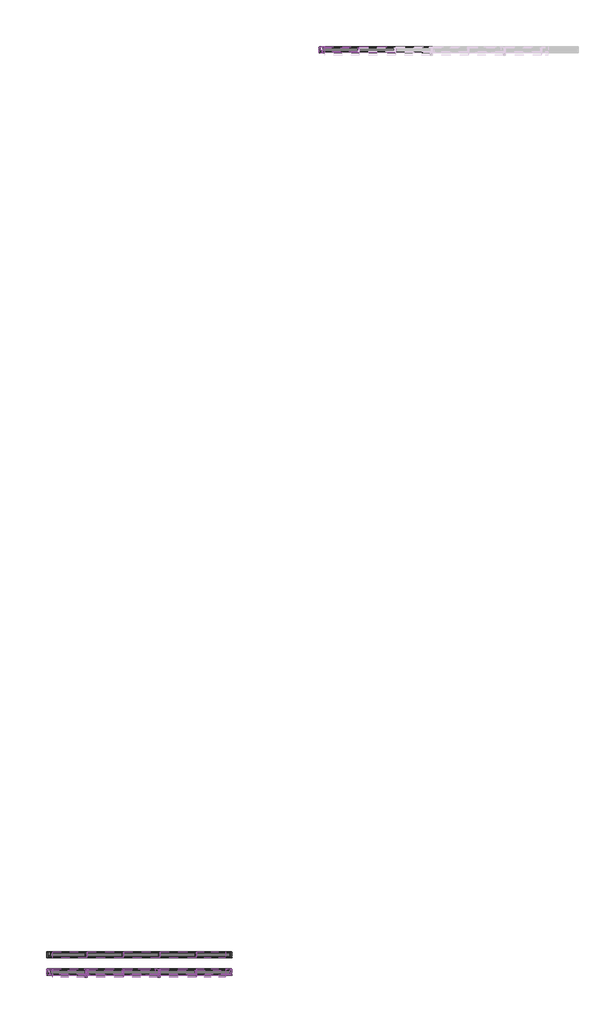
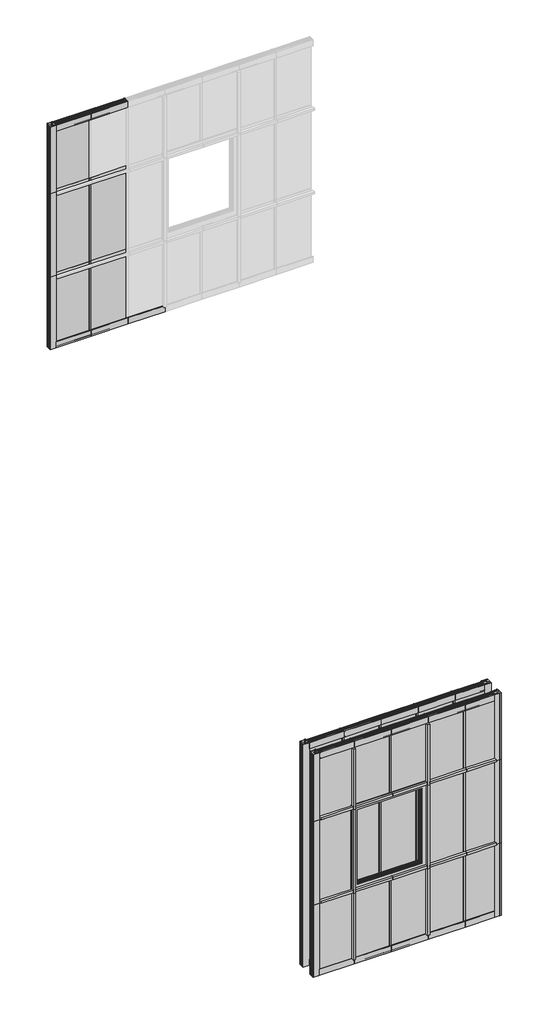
# One storey, part 1 of 2: 52 members, 24 plates.
"""IFC4 building model written with IfcOpenShell, lengths in millimetres."""

from ifc_helpers import new_model, si_unit, origin, place, context, project, spatial, transform, mapped, element, save
from components import rectangular_mullion_3d33f7ff, rectangular_mullion_8ebac9a3, rectangular_mullion_053339e4, rectangular_mullion_ac457c08, rectangular_mullion_18d46115, rectangular_mullion_0cc837b9, rectangular_mullion_8438cd58, rectangular_mullion_f415532d, rectangular_mullion_8e6b7b6a, rectangular_mullion_9ac38ad4, rectangular_mullion_693fc03c, rectangular_mullion_91cc7b07, rectangular_mullion_ccd2dda7, rectangular_mullion_388b4376, plate_56173b51, plate_675aabbb, plate_009a9a5f, plate_8ef7ebab, plate_4441f15f, plate_d8b1bd5c, plate_df3c17a9, plate_2f56a092, plate_6e1f941d

model = new_model("IFC4")

# Units and contexts
model_context = context("Model", 3, world=origin())
ifc_project = project(units=[si_unit("LENGTHUNIT", "METRE", prefix="MILLI")], contexts=[model_context])

# Site, building, storey
site = spatial("IfcSite", under=ifc_project)
building = spatial("IfcBuilding", under=site)
storey = spatial("IfcBuildingStorey", under=building, Name="Danpal-K7+AIRPT", Elevation=0.0)

# Members
placement = place(None, origin())
rectangular_mullion_shape = rectangular_mullion_3d33f7ff(model_context)
element("IfcMember", 1, ObjectType="Rectangular Mullion : Danpal_Airpt_End-Mullion_B2", at=placement, inside=storey, context=model_context, shape_type="MappedRepresentation", body=[
    mapped(rectangular_mullion_shape, transform((1362.1229407, 2317.5512666, 4000.0), x_axis=(0.0, 0.0, 1.0), y_axis=(0.0, -1.0, 0.0), z_axis=(1.0, 0.0, 0.0))),
])
rectangular_mullion_2_shape = rectangular_mullion_8ebac9a3(model_context)
element("IfcMember", 2, ObjectType="Rectangular Mullion : Danpal_Airpt_End-Mullion_B2", at=placement, inside=storey, context=model_context, shape_type="MappedRepresentation", body=[
    mapped(rectangular_mullion_2_shape, transform((1992.1229407, 2317.5512666, 4000.0), x_axis=(0.0, 0.0, 1.0), y_axis=(0.0, -1.0, 0.0), z_axis=(1.0, 0.0, 0.0))),
])
element("IfcMember", 3, ObjectType="Rectangular Mullion : Danpal_Airpt_End-Mullion_B2", at=placement, inside=storey, context=model_context, shape_type="MappedRepresentation", body=[
    mapped(rectangular_mullion_2_shape, transform((3252.1229407, 2317.5512666, 4000.0), x_axis=(0.0, 0.0, 1.0), y_axis=(0.0, -1.0, 0.0), z_axis=(1.0, 0.0, 0.0))),
])
element("IfcMember", 4, ObjectType="Rectangular Mullion : Danpal_Airpt_End-Mullion_B1", at=placement, inside=storey, context=model_context, shape_type="MappedRepresentation", body=[
    mapped(rectangular_mullion_shape, transform((771.171497, 2317.5512666, 0.0), x_axis=(0.0, 0.0, -1.0), y_axis=(0.0, -1.0, 0.0), z_axis=(-1.0, 0.0, 0.0))),
])
element("IfcMember", 5, ObjectType="Rectangular Mullion : Danpal_Airpt_End-Mullion_B1", at=placement, inside=storey, context=model_context, shape_type="MappedRepresentation", body=[
    mapped(rectangular_mullion_2_shape, transform((1362.1229407, 2317.5512666, 0.0), x_axis=(0.0, 0.0, -1.0), y_axis=(0.0, -1.0, 0.0), z_axis=(-1.0, 0.0, 0.0))),
])
element("IfcMember", 6, ObjectType="Rectangular Mullion : Danpal_Airpt_End-Mullion_B1", at=placement, inside=storey, context=model_context, shape_type="MappedRepresentation", body=[
    mapped(rectangular_mullion_2_shape, transform((2622.1229407, 2317.5512666, 0.0), x_axis=(0.0, 0.0, -1.0), y_axis=(0.0, -1.0, 0.0), z_axis=(-1.0, 0.0, 0.0))),
])
element("IfcMember", 7, ObjectType="Rectangular Mullion : Danpal_Airpt_End-Mullion_B2", at=placement, inside=storey, context=model_context, shape_type="MappedRepresentation", body=[
    mapped(rectangular_mullion_2_shape, transform((2622.1229407, 2317.5512666, 4000.0), x_axis=(0.0, 0.0, 1.0), y_axis=(0.0, -1.0, 0.0), z_axis=(1.0, 0.0, 0.0))),
])
element("IfcMember", 8, ObjectType="Rectangular Mullion : Danpal_Airpt_End-Mullion_B1", at=placement, inside=storey, context=model_context, shape_type="MappedRepresentation", body=[
    mapped(rectangular_mullion_2_shape, transform((1992.1229407, 2317.5512666, 0.0), x_axis=(0.0, 0.0, -1.0), y_axis=(0.0, -1.0, 0.0), z_axis=(-1.0, 0.0, 0.0))),
])
element("IfcMember", 9, ObjectType="Rectangular Mullion : Danpal_Airpt_End-Mullion_B1", at=placement, inside=storey, context=model_context, shape_type="MappedRepresentation", body=[
    mapped(rectangular_mullion_2_shape, transform((6692.1229407, 18217.5512666, 0.0), x_axis=(0.0, 0.0, -1.0), y_axis=(0.0, -1.0, 0.0), z_axis=(-1.0, 0.0, 0.0))),
])
rectangular_mullion_3_shape = rectangular_mullion_053339e4(model_context)
element("IfcMember", 10, ObjectType="Rectangular Mullion : Danpal_NM_Middle-V-Mullion", at=placement, inside=storey, context=model_context, shape_type="MappedRepresentation", body=[
    mapped(rectangular_mullion_3_shape, transform((1362.1229407, 2317.5512666, 106.8892292), x_axis=(1.0, 0.0, 0.0), y_axis=(0.0, -1.0, 0.0), z_axis=(0.0, 0.0, -1.0))),
])
element("IfcMember", 11, ObjectType="Rectangular Mullion : Danpal_NM_Middle-V-Mullion", at=placement, inside=storey, context=model_context, shape_type="MappedRepresentation", body=[
    mapped(rectangular_mullion_3_shape, transform((2622.1229407, 2317.5512666, 106.8892292), x_axis=(1.0, 0.0, 0.0), y_axis=(0.0, -1.0, 0.0), z_axis=(0.0, 0.0, -1.0))),
])
rectangular_mullion_4_shape = rectangular_mullion_ac457c08(model_context)
element("IfcMember", 12, ObjectType="Rectangular Mullion : Danpal_Airpt_End-Mullion_B2", at=placement, inside=storey, context=model_context, shape_type="MappedRepresentation", body=[
    mapped(rectangular_mullion_4_shape, transform((3864.2822678, 2317.5512666, 0.0), x_axis=(1.0, 0.0, 0.0), y_axis=(0.0, -1.0, 0.0), z_axis=(0.0, 0.0, -1.0))),
])
element("IfcMember", 13, ObjectType="Rectangular Mullion : Danpal_Airpt_End-Mullion_B1", at=placement, inside=storey, context=model_context, shape_type="MappedRepresentation", body=[
    mapped(rectangular_mullion_4_shape, transform((664.2822678, 2317.5512666, 1300.0), x_axis=(-1.0, 0.0, 0.0), y_axis=(0.0, -1.0, 0.0), z_axis=(0.0, 0.0, 1.0))),
])
element("IfcMember", 14, ObjectType="Rectangular Mullion : Danpal_Airpt_End-Mullion_B1", at=placement, inside=storey, context=model_context, shape_type="MappedRepresentation", body=[
    mapped(rectangular_mullion_4_shape, transform((5364.2822678, 18217.5512666, 1300.0), x_axis=(-1.0, 0.0, 0.0), y_axis=(0.0, -1.0, 0.0), z_axis=(0.0, 0.0, 1.0))),
])
rectangular_mullion_5_shape = rectangular_mullion_18d46115(model_context)
element("IfcMember", 15, ObjectType="Rectangular Mullion : Danpal_NM_Middle-V-Mullion", at=placement, inside=storey, context=model_context, shape_type="MappedRepresentation", body=[
    mapped(rectangular_mullion_5_shape, transform((1362.1229407, 2317.5512666, 1300.0), x_axis=(1.0, 0.0, 0.0), y_axis=(0.0, -1.0, 0.0), z_axis=(0.0, 0.0, -1.0))),
])
element("IfcMember", 16, ObjectType="Rectangular Mullion : Danpal_NM_Middle-V-Mullion", at=placement, inside=storey, context=model_context, shape_type="MappedRepresentation", body=[
    mapped(rectangular_mullion_5_shape, transform((2622.1229407, 2317.5512666, 1300.0), x_axis=(1.0, 0.0, 0.0), y_axis=(0.0, -1.0, 0.0), z_axis=(0.0, 0.0, -1.0))),
])
rectangular_mullion_6_shape = rectangular_mullion_0cc837b9(model_context)
element("IfcMember", 17, ObjectType="Rectangular Mullion : Danpal_NM_Middle-V-Mullion", at=placement, inside=storey, context=model_context, shape_type="MappedRepresentation", body=[
    mapped(rectangular_mullion_6_shape, transform((1362.1229407, 2317.5512666, 2800.0), x_axis=(1.0, 0.0, 0.0), y_axis=(0.0, -1.0, 0.0), z_axis=(0.0, 0.0, -1.0))),
])
element("IfcMember", 18, ObjectType="Rectangular Mullion : Danpal_NM_Middle-V-Mullion", at=placement, inside=storey, context=model_context, shape_type="MappedRepresentation", body=[
    mapped(rectangular_mullion_6_shape, transform((2622.1229407, 2317.5512666, 2800.0), x_axis=(1.0, 0.0, 0.0), y_axis=(0.0, -1.0, 0.0), z_axis=(0.0, 0.0, -1.0))),
])
rectangular_mullion_7_shape = rectangular_mullion_8438cd58(model_context)
element("IfcMember", 19, ObjectType="Rectangular Mullion : Danpal_Airpt_End-Mullion_B2", at=placement, inside=storey, context=model_context, shape_type="MappedRepresentation", body=[
    mapped(rectangular_mullion_7_shape, transform((3864.2822678, 2317.5512666, 2800.0), x_axis=(1.0, 0.0, 0.0), y_axis=(0.0, -1.0, 0.0), z_axis=(0.0, 0.0, -1.0))),
])
rectangular_mullion_8_shape = rectangular_mullion_f415532d(model_context)
element("IfcMember", 20, ObjectType="Rectangular Mullion : Danpal_Airpt_End-Mullion_B2", at=placement, inside=storey, context=model_context, shape_type="MappedRepresentation", body=[
    mapped(rectangular_mullion_8_shape, transform((3864.2822678, 2317.5512666, 1300.0), x_axis=(1.0, 0.0, 0.0), y_axis=(0.0, -1.0, 0.0), z_axis=(0.0, 0.0, -1.0))),
])
element("IfcMember", 21, ObjectType="Rectangular Mullion : Danpal_Airpt_End-Mullion_B1", at=placement, inside=storey, context=model_context, shape_type="MappedRepresentation", body=[
    mapped(rectangular_mullion_7_shape, transform((664.2822678, 2317.5512666, 4000.0), x_axis=(-1.0, 0.0, 0.0), y_axis=(0.0, -1.0, 0.0), z_axis=(0.0, 0.0, 1.0))),
])
element("IfcMember", 22, ObjectType="Rectangular Mullion : Danpal_Airpt_End-Mullion_B1", at=placement, inside=storey, context=model_context, shape_type="MappedRepresentation", body=[
    mapped(rectangular_mullion_8_shape, transform((664.2822678, 2317.5512666, 2800.0), x_axis=(-1.0, 0.0, 0.0), y_axis=(0.0, -1.0, 0.0), z_axis=(0.0, 0.0, 1.0))),
])
element("IfcMember", 23, ObjectType="Rectangular Mullion : Danpal_Airpt_End-Mullion_B1", at=placement, inside=storey, context=model_context, shape_type="MappedRepresentation", body=[
    mapped(rectangular_mullion_8_shape, transform((5364.2822678, 18217.5512666, 2800.0), x_axis=(-1.0, 0.0, 0.0), y_axis=(0.0, -1.0, 0.0), z_axis=(0.0, 0.0, 1.0))),
])
rectangular_mullion_9_shape = rectangular_mullion_8e6b7b6a(model_context)
element("IfcMember", 24, ObjectType="Rectangular Mullion : Danpal_NM_Middle-H-Mullion", at=placement, inside=storey, context=model_context, shape_type="MappedRepresentation", body=[
    mapped(rectangular_mullion_9_shape, transform((1992.1229407, 2317.5512666, 2800.0), x_axis=(0.0, 0.0, 1.0), y_axis=(0.0, -1.0, 0.0), z_axis=(1.0, 0.0, 0.0))),
])
element("IfcMember", 25, ObjectType="Rectangular Mullion : Danpal_NM_Middle-H-Mullion", at=placement, inside=storey, context=model_context, shape_type="MappedRepresentation", body=[
    mapped(rectangular_mullion_9_shape, transform((1992.1229407, 2317.5512666, 1300.0), x_axis=(0.0, 0.0, 1.0), y_axis=(0.0, -1.0, 0.0), z_axis=(1.0, 0.0, 0.0))),
])
element("IfcMember", 26, ObjectType="Rectangular Mullion : Danpal_NM_Middle-H-Mullion", at=placement, inside=storey, context=model_context, shape_type="MappedRepresentation", body=[
    mapped(rectangular_mullion_9_shape, transform((3252.1229407, 2317.5512666, 1300.0), x_axis=(0.0, 0.0, 1.0), y_axis=(0.0, -1.0, 0.0), z_axis=(1.0, 0.0, 0.0))),
])
element("IfcMember", 27, ObjectType="Rectangular Mullion : Danpal_NM_Middle-H-Mullion", at=placement, inside=storey, context=model_context, shape_type="MappedRepresentation", body=[
    mapped(rectangular_mullion_9_shape, transform((3252.1229407, 2317.5512666, 2800.0), x_axis=(0.0, 0.0, 1.0), y_axis=(0.0, -1.0, 0.0), z_axis=(1.0, 0.0, 0.0))),
])
rectangular_mullion_10_shape = rectangular_mullion_9ac38ad4(model_context)
element("IfcMember", 28, ObjectType="Rectangular Mullion : Danpal_NM_Middle-H-Mullion", at=placement, inside=storey, context=model_context, shape_type="MappedRepresentation", body=[
    mapped(rectangular_mullion_10_shape, transform((2582.1229407, 2317.5512666, 2800.0), x_axis=(0.0, 0.0, 1.0), y_axis=(0.0, -1.0, 0.0), z_axis=(1.0, 0.0, 0.0))),
])
element("IfcMember", 29, ObjectType="Rectangular Mullion : Danpal_NM_Middle-H-Mullion", at=placement, inside=storey, context=model_context, shape_type="MappedRepresentation", body=[
    mapped(rectangular_mullion_10_shape, transform((2582.1229407, 2317.5512666, 1300.0), x_axis=(0.0, 0.0, 1.0), y_axis=(0.0, -1.0, 0.0), z_axis=(1.0, 0.0, 0.0))),
])
rectangular_mullion_11_shape = rectangular_mullion_693fc03c(model_context)
element("IfcMember", 30, ObjectType="Rectangular Mullion : Danpal_NM_Middle-H-Mullion", at=placement, inside=storey, context=model_context, shape_type="MappedRepresentation", body=[
    mapped(rectangular_mullion_11_shape, transform((1322.1229407, 2317.5512666, 1300.0), x_axis=(0.0, 0.0, 1.0), y_axis=(0.0, -1.0, 0.0), z_axis=(1.0, 0.0, 0.0))),
])
element("IfcMember", 31, ObjectType="Rectangular Mullion : Danpal_NM_Middle-H-Mullion", at=placement, inside=storey, context=model_context, shape_type="MappedRepresentation", body=[
    mapped(rectangular_mullion_11_shape, transform((1322.1229407, 2317.5512666, 2800.0), x_axis=(0.0, 0.0, 1.0), y_axis=(0.0, -1.0, 0.0), z_axis=(1.0, 0.0, 0.0))),
])
rectangular_mullion_12_shape = rectangular_mullion_91cc7b07(model_context)
element("IfcMember", 32, ObjectType="Rectangular Mullion : Danpal_NM_Middle-H-Mullion", at=placement, inside=storey, context=model_context, shape_type="MappedRepresentation", body=[
    mapped(rectangular_mullion_12_shape, transform((3757.3930386, 2317.5512666, 1300.0), x_axis=(0.0, 0.0, 1.0), y_axis=(0.0, -1.0, 0.0), z_axis=(1.0, 0.0, 0.0))),
])
element("IfcMember", 33, ObjectType="Rectangular Mullion : Danpal_NM_Middle-H-Mullion", at=placement, inside=storey, context=model_context, shape_type="MappedRepresentation", body=[
    mapped(rectangular_mullion_12_shape, transform((3757.3930386, 2317.5512666, 2800.0), x_axis=(0.0, 0.0, 1.0), y_axis=(0.0, -1.0, 0.0), z_axis=(1.0, 0.0, 0.0))),
])
element("IfcMember", 34, ObjectType="Rectangular Mullion : Danpal_Airpt_End-Mullion_B1", at=placement, inside=storey, context=model_context, shape_type="MappedRepresentation", body=[
    mapped(rectangular_mullion_2_shape, transform((6062.1229407, 18217.5512666, 0.0), x_axis=(0.0, 0.0, -1.0), y_axis=(0.0, -1.0, 0.0), z_axis=(-1.0, 0.0, 0.0))),
])
element("IfcMember", 35, ObjectType="Rectangular Mullion : Danpal_Airpt_End-Mullion_B2", at=placement, inside=storey, context=model_context, shape_type="MappedRepresentation", body=[
    mapped(rectangular_mullion_shape, transform((6062.1229407, 18217.5512666, 4000.0), x_axis=(0.0, 0.0, 1.0), y_axis=(0.0, -1.0, 0.0), z_axis=(1.0, 0.0, 0.0))),
])
element("IfcMember", 36, ObjectType="Rectangular Mullion : Danpal_Airpt_End-Mullion_B1", at=placement, inside=storey, context=model_context, shape_type="MappedRepresentation", body=[
    mapped(rectangular_mullion_7_shape, transform((5364.2822678, 18217.5512666, 4000.0), x_axis=(-1.0, 0.0, 0.0), y_axis=(0.0, -1.0, 0.0), z_axis=(0.0, 0.0, 1.0))),
])
rectangular_mullion_13_shape = rectangular_mullion_ccd2dda7(model_context)
element("IfcMember", 37, ObjectType="Rectangular Mullion : Danpal_Airpt_End-Mullion_B1", at=placement, inside=storey, context=model_context, shape_type="MappedRepresentation", body=[
    mapped(rectangular_mullion_13_shape, transform((664.2822678, 2617.5512666, 4000.0), x_axis=(-1.0, 0.0, 0.0), y_axis=(0.0, -1.0, 0.0), z_axis=(0.0, 0.0, 1.0))),
])
element("IfcMember", 38, ObjectType="Rectangular Mullion : Danpal_Airpt_End-Mullion_B2", at=placement, inside=storey, context=model_context, shape_type="MappedRepresentation", body=[
    mapped(rectangular_mullion_13_shape, transform((3864.2822678, 2617.5512666, 0.0), x_axis=(1.0, 0.0, 0.0), y_axis=(0.0, -1.0, 0.0), z_axis=(0.0, 0.0, -1.0))),
])
element("IfcMember", 39, ObjectType="Rectangular Mullion : Danpal_Airpt_End-Mullion_B2", at=placement, inside=storey, context=model_context, shape_type="MappedRepresentation", body=[
    mapped(rectangular_mullion_2_shape, transform((3252.1229407, 2617.5512666, 4000.0), x_axis=(0.0, 0.0, 1.0), y_axis=(0.0, -1.0, 0.0), z_axis=(1.0, 0.0, 0.0))),
])
element("IfcMember", 40, ObjectType="Rectangular Mullion : Danpal_Airpt_End-Mullion_B2", at=placement, inside=storey, context=model_context, shape_type="MappedRepresentation", body=[
    mapped(rectangular_mullion_2_shape, transform((6692.1229407, 18217.5512666, 4000.0), x_axis=(0.0, 0.0, 1.0), y_axis=(0.0, -1.0, 0.0), z_axis=(1.0, 0.0, 0.0))),
])
element("IfcMember", 41, ObjectType="Rectangular Mullion : Danpal_Airpt_End-Mullion_B2", at=placement, inside=storey, context=model_context, shape_type="MappedRepresentation", body=[
    mapped(rectangular_mullion_shape, transform((1362.1229407, 2617.5512666, 4000.0), x_axis=(0.0, 0.0, 1.0), y_axis=(0.0, -1.0, 0.0), z_axis=(1.0, 0.0, 0.0))),
])
element("IfcMember", 42, ObjectType="Rectangular Mullion : Danpal_Airpt_End-Mullion_B2", at=placement, inside=storey, context=model_context, shape_type="MappedRepresentation", body=[
    mapped(rectangular_mullion_2_shape, transform((1992.1229407, 2617.5512666, 4000.0), x_axis=(0.0, 0.0, 1.0), y_axis=(0.0, -1.0, 0.0), z_axis=(1.0, 0.0, 0.0))),
])
element("IfcMember", 43, ObjectType="Rectangular Mullion : Danpal_Airpt_End-Mullion_B2", at=placement, inside=storey, context=model_context, shape_type="MappedRepresentation", body=[
    mapped(rectangular_mullion_2_shape, transform((2622.1229407, 2617.5512666, 4000.0), x_axis=(0.0, 0.0, 1.0), y_axis=(0.0, -1.0, 0.0), z_axis=(1.0, 0.0, 0.0))),
])
element("IfcMember", 44, ObjectType="Rectangular Mullion : Danpal_Airpt_End-Mullion_B1", at=placement, inside=storey, context=model_context, shape_type="MappedRepresentation", body=[
    mapped(rectangular_mullion_shape, transform((771.171497, 2617.5512666, 0.0), x_axis=(0.0, 0.0, -1.0), y_axis=(0.0, -1.0, 0.0), z_axis=(-1.0, 0.0, 0.0))),
])
element("IfcMember", 45, ObjectType="Rectangular Mullion : Danpal_Airpt_End-Mullion_B1", at=placement, inside=storey, context=model_context, shape_type="MappedRepresentation", body=[
    mapped(rectangular_mullion_shape, transform((5471.171497, 18217.5512666, 0.0), x_axis=(0.0, 0.0, -1.0), y_axis=(0.0, -1.0, 0.0), z_axis=(-1.0, 0.0, 0.0))),
])
element("IfcMember", 46, ObjectType="Rectangular Mullion : Danpal_Airpt_End-Mullion_B1", at=placement, inside=storey, context=model_context, shape_type="MappedRepresentation", body=[
    mapped(rectangular_mullion_2_shape, transform((1362.1229407, 2617.5512666, 0.0), x_axis=(0.0, 0.0, -1.0), y_axis=(0.0, -1.0, 0.0), z_axis=(-1.0, 0.0, 0.0))),
])
element("IfcMember", 47, ObjectType="Rectangular Mullion : Danpal_Airpt_End-Mullion_B1", at=placement, inside=storey, context=model_context, shape_type="MappedRepresentation", body=[
    mapped(rectangular_mullion_2_shape, transform((1992.1229407, 2617.5512666, 0.0), x_axis=(0.0, 0.0, -1.0), y_axis=(0.0, -1.0, 0.0), z_axis=(-1.0, 0.0, 0.0))),
])
element("IfcMember", 48, ObjectType="Rectangular Mullion : Danpal_Airpt_End-Mullion_B1", at=placement, inside=storey, context=model_context, shape_type="MappedRepresentation", body=[
    mapped(rectangular_mullion_2_shape, transform((2622.1229407, 2617.5512666, 0.0), x_axis=(0.0, 0.0, -1.0), y_axis=(0.0, -1.0, 0.0), z_axis=(-1.0, 0.0, 0.0))),
])
rectangular_mullion_14_shape = rectangular_mullion_388b4376(model_context)
element("IfcMember", 49, ObjectType="Rectangular Mullion : Danpal_Airpt_End-Mullion_B2", at=placement, inside=storey, context=model_context, shape_type="MappedRepresentation", body=[
    mapped(rectangular_mullion_14_shape, transform((3757.3930386, 2317.5512666, 4000.0), x_axis=(0.0, 0.0, 1.0), y_axis=(0.0, -1.0, 0.0), z_axis=(1.0, 0.0, 0.0))),
])
element("IfcMember", 50, ObjectType="Rectangular Mullion : Danpal_Airpt_End-Mullion_B2", at=placement, inside=storey, context=model_context, shape_type="MappedRepresentation", body=[
    mapped(rectangular_mullion_14_shape, transform((3757.3930386, 2617.5512666, 4000.0), x_axis=(0.0, 0.0, 1.0), y_axis=(0.0, -1.0, 0.0), z_axis=(1.0, 0.0, 0.0))),
])
element("IfcMember", 51, ObjectType="Rectangular Mullion : Danpal_Airpt_End-Mullion_B1", at=placement, inside=storey, context=model_context, shape_type="MappedRepresentation", body=[
    mapped(rectangular_mullion_14_shape, transform((3252.1229407, 2317.5512666, 0.0), x_axis=(0.0, 0.0, -1.0), y_axis=(0.0, -1.0, 0.0), z_axis=(-1.0, 0.0, 0.0))),
])
element("IfcMember", 52, ObjectType="Rectangular Mullion : Danpal_Airpt_End-Mullion_B1", at=placement, inside=storey, context=model_context, shape_type="MappedRepresentation", body=[
    mapped(rectangular_mullion_14_shape, transform((3252.1229407, 2617.5512666, 0.0), x_axis=(0.0, 0.0, -1.0), y_axis=(0.0, -1.0, 0.0), z_axis=(-1.0, 0.0, 0.0))),
])

# Plates
plate_shape = plate_56173b51(model_context)
element("IfcPlate", 53, ObjectType="Window-Profile-Danpal-AIRPT : Window-Profile-Danpal-AIRPT", at=placement, inside=storey, context=model_context, shape_type="MappedRepresentation", body=[
    mapped(plate_shape, transform((1992.1229407, 2317.5512666, 1300.0), x_axis=(1.0, 0.0, 0.0), y_axis=(0.0, 1.0, 0.0), z_axis=(0.0, 0.0, 1.0))),
])
plate_2_shape = plate_675aabbb(model_context)
element("IfcPlate", 54, ObjectType="Walls_External-Walls_Danpal_Danpatherm-K7-with-AIRPT-Frame : Walls_External-Walls_Danpal_Danpatherm-K7-with-AIRPT-Frame", at=placement, inside=storey, context=model_context, shape_type="MappedRepresentation", body=[
    mapped(plate_2_shape, transform((3535.4322678, 2317.5512666, 67.840673), x_axis=(1.0, 0.0, 0.0), y_axis=(0.0, 1.0, 0.0), z_axis=(0.0, 0.0, 1.0))),
])
plate_3_shape = plate_009a9a5f(model_context)
element("IfcPlate", 55, ObjectType="Walls_External-Walls_Danpal_Danpatherm-K7-with-AIRPT-Frame : Walls_External-Walls_Danpal_Danpatherm-K7-with-AIRPT-Frame", at=placement, inside=storey, context=model_context, shape_type="MappedRepresentation", body=[
    mapped(plate_3_shape, transform((1047.1229407, 2317.5512666, 1300.0), x_axis=(1.0, 0.0, 0.0), y_axis=(0.0, 1.0, 0.0), z_axis=(0.0, 0.0, 1.0))),
])
element("IfcPlate", 56, ObjectType="Walls_External-Walls_Danpal_Danpatherm-K7-with-AIRPT-Frame : Walls_External-Walls_Danpal_Danpatherm-K7-with-AIRPT-Frame", at=placement, inside=storey, context=model_context, shape_type="MappedRepresentation", body=[
    mapped(plate_3_shape, transform((2937.1229407, 2317.5512666, 1300.0), x_axis=(1.0, 0.0, 0.0), y_axis=(0.0, 1.0, 0.0), z_axis=(0.0, 0.0, 1.0))),
])
element("IfcPlate", 57, ObjectType="Walls_External-Walls_Danpal_Danpatherm-K7-with-AIRPT-Frame : Walls_External-Walls_Danpal_Danpatherm-K7-with-AIRPT-Frame", at=placement, inside=storey, context=model_context, shape_type="MappedRepresentation", body=[
    mapped(plate_3_shape, transform((5747.1229407, 18217.5512666, 1300.0), x_axis=(1.0, 0.0, 0.0), y_axis=(0.0, 1.0, 0.0), z_axis=(0.0, 0.0, 1.0))),
])
element("IfcPlate", 58, ObjectType="Walls_External-Walls_Danpal_Danpatherm-K7-with-AIRPT-Frame : Walls_External-Walls_Danpal_Danpatherm-K7-with-AIRPT-Frame", at=placement, inside=storey, context=model_context, shape_type="MappedRepresentation", body=[
    mapped(plate_3_shape, transform((6377.1229407, 18217.5512666, 1300.0), x_axis=(1.0, 0.0, 0.0), y_axis=(0.0, 1.0, 0.0), z_axis=(0.0, 0.0, 1.0))),
])
plate_4_shape = plate_8ef7ebab(model_context)
element("IfcPlate", 59, ObjectType="Walls_External-Walls_Danpal_Danpatherm-K7-with-AIRPT-Frame : Walls_External-Walls_Danpal_Danpatherm-K7-with-AIRPT-Frame", at=placement, inside=storey, context=model_context, shape_type="MappedRepresentation", body=[
    mapped(plate_4_shape, transform((3535.4322678, 2317.5512666, 2800.0), x_axis=(1.0, 0.0, 0.0), y_axis=(0.0, 1.0, 0.0), z_axis=(0.0, 0.0, 1.0))),
])
plate_5_shape = plate_4441f15f(model_context)
element("IfcPlate", 60, ObjectType="Walls_External-Walls_Danpal_Danpatherm-K7-with-AIRPT-Frame : Walls_External-Walls_Danpal_Danpatherm-K7-with-AIRPT-Frame", at=placement, inside=storey, context=model_context, shape_type="MappedRepresentation", body=[
    mapped(plate_5_shape, transform((3535.4322678, 2317.5512666, 1300.0), x_axis=(1.0, 0.0, 0.0), y_axis=(0.0, 1.0, 0.0), z_axis=(0.0, 0.0, 1.0))),
])
plate_6_shape = plate_d8b1bd5c(model_context)
element("IfcPlate", 61, ObjectType="Walls_External-Walls_Danpal_Danpatherm-K7-with-AIRPT-Frame : Walls_External-Walls_Danpal_Danpatherm-K7-with-AIRPT-Frame", at=placement, inside=storey, context=model_context, shape_type="MappedRepresentation", body=[
    mapped(plate_6_shape, transform((1677.1229407, 2317.5512666, 67.840673), x_axis=(1.0, 0.0, 0.0), y_axis=(0.0, 1.0, 0.0), z_axis=(0.0, 0.0, 1.0))),
])
element("IfcPlate", 62, ObjectType="Walls_External-Walls_Danpal_Danpatherm-K7-with-AIRPT-Frame : Walls_External-Walls_Danpal_Danpatherm-K7-with-AIRPT-Frame", at=placement, inside=storey, context=model_context, shape_type="MappedRepresentation", body=[
    mapped(plate_6_shape, transform((2307.1229407, 2317.5512666, 67.840673), x_axis=(1.0, 0.0, 0.0), y_axis=(0.0, 1.0, 0.0), z_axis=(0.0, 0.0, 1.0))),
])
element("IfcPlate", 63, ObjectType="Walls_External-Walls_Danpal_Danpatherm-K7-with-AIRPT-Frame : Walls_External-Walls_Danpal_Danpatherm-K7-with-AIRPT-Frame", at=placement, inside=storey, context=model_context, shape_type="MappedRepresentation", body=[
    mapped(plate_6_shape, transform((1047.1229407, 2317.5512666, 67.840673), x_axis=(1.0, 0.0, 0.0), y_axis=(0.0, 1.0, 0.0), z_axis=(0.0, 0.0, 1.0))),
])
element("IfcPlate", 64, ObjectType="Walls_External-Walls_Danpal_Danpatherm-K7-with-AIRPT-Frame : Walls_External-Walls_Danpal_Danpatherm-K7-with-AIRPT-Frame", at=placement, inside=storey, context=model_context, shape_type="MappedRepresentation", body=[
    mapped(plate_6_shape, transform((2937.1229407, 2317.5512666, 67.840673), x_axis=(1.0, 0.0, 0.0), y_axis=(0.0, 1.0, 0.0), z_axis=(0.0, 0.0, 1.0))),
])
element("IfcPlate", 65, ObjectType="Walls_External-Walls_Danpal_Danpatherm-K7-with-AIRPT-Frame : Walls_External-Walls_Danpal_Danpatherm-K7-with-AIRPT-Frame", at=placement, inside=storey, context=model_context, shape_type="MappedRepresentation", body=[
    mapped(plate_6_shape, transform((5747.1229407, 18217.5512666, 67.840673), x_axis=(1.0, 0.0, 0.0), y_axis=(0.0, 1.0, 0.0), z_axis=(0.0, 0.0, 1.0))),
])
element("IfcPlate", 66, ObjectType="Walls_External-Walls_Danpal_Danpatherm-K7-with-AIRPT-Frame : Walls_External-Walls_Danpal_Danpatherm-K7-with-AIRPT-Frame", at=placement, inside=storey, context=model_context, shape_type="MappedRepresentation", body=[
    mapped(plate_6_shape, transform((6377.1229407, 18217.5512666, 67.840673), x_axis=(1.0, 0.0, 0.0), y_axis=(0.0, 1.0, 0.0), z_axis=(0.0, 0.0, 1.0))),
])
plate_7_shape = plate_df3c17a9(model_context)
element("IfcPlate", 67, ObjectType="Walls_External-Walls_Danpal_Danpatherm-K7-with-AIRPT-Frame : Walls_External-Walls_Danpal_Danpatherm-K7-with-AIRPT-Frame", at=placement, inside=storey, context=model_context, shape_type="MappedRepresentation", body=[
    mapped(plate_7_shape, transform((1047.1229407, 2317.5512666, 2800.0), x_axis=(1.0, 0.0, 0.0), y_axis=(0.0, 1.0, 0.0), z_axis=(0.0, 0.0, 1.0))),
])
element("IfcPlate", 68, ObjectType="Walls_External-Walls_Danpal_Danpatherm-K7-with-AIRPT-Frame : Walls_External-Walls_Danpal_Danpatherm-K7-with-AIRPT-Frame", at=placement, inside=storey, context=model_context, shape_type="MappedRepresentation", body=[
    mapped(plate_7_shape, transform((1677.1229407, 2317.5512666, 2800.0), x_axis=(1.0, 0.0, 0.0), y_axis=(0.0, 1.0, 0.0), z_axis=(0.0, 0.0, 1.0))),
])
element("IfcPlate", 69, ObjectType="Walls_External-Walls_Danpal_Danpatherm-K7-with-AIRPT-Frame : Walls_External-Walls_Danpal_Danpatherm-K7-with-AIRPT-Frame", at=placement, inside=storey, context=model_context, shape_type="MappedRepresentation", body=[
    mapped(plate_7_shape, transform((2307.1229407, 2317.5512666, 2800.0), x_axis=(1.0, 0.0, 0.0), y_axis=(0.0, 1.0, 0.0), z_axis=(0.0, 0.0, 1.0))),
])
element("IfcPlate", 70, ObjectType="Walls_External-Walls_Danpal_Danpatherm-K7-with-AIRPT-Frame : Walls_External-Walls_Danpal_Danpatherm-K7-with-AIRPT-Frame", at=placement, inside=storey, context=model_context, shape_type="MappedRepresentation", body=[
    mapped(plate_7_shape, transform((2937.1229407, 2317.5512666, 2800.0), x_axis=(1.0, 0.0, 0.0), y_axis=(0.0, 1.0, 0.0), z_axis=(0.0, 0.0, 1.0))),
])
element("IfcPlate", 71, ObjectType="Walls_External-Walls_Danpal_Danpatherm-K7-with-AIRPT-Frame : Walls_External-Walls_Danpal_Danpatherm-K7-with-AIRPT-Frame", at=placement, inside=storey, context=model_context, shape_type="MappedRepresentation", body=[
    mapped(plate_7_shape, transform((5747.1229407, 18217.5512666, 2800.0), x_axis=(1.0, 0.0, 0.0), y_axis=(0.0, 1.0, 0.0), z_axis=(0.0, 0.0, 1.0))),
])
plate_8_shape = plate_2f56a092(model_context)
element("IfcPlate", 72, ObjectType="Walls_External-Walls_Danpal_Danpatherm-K7-with-AIRPT-Frame : Walls_External-Walls_Danpal_Danpatherm-K7-with-AIRPT-Frame", at=placement, inside=storey, context=model_context, shape_type="MappedRepresentation", body=[
    mapped(plate_8_shape, transform((1047.1229407, 2617.5512666, 67.840673), x_axis=(1.0, 0.0, 0.0), y_axis=(0.0, 1.0, 0.0), z_axis=(0.0, 0.0, 1.0))),
])
element("IfcPlate", 73, ObjectType="Walls_External-Walls_Danpal_Danpatherm-K7-with-AIRPT-Frame : Walls_External-Walls_Danpal_Danpatherm-K7-with-AIRPT-Frame", at=placement, inside=storey, context=model_context, shape_type="MappedRepresentation", body=[
    mapped(plate_8_shape, transform((1677.1229407, 2617.5512666, 67.840673), x_axis=(1.0, 0.0, 0.0), y_axis=(0.0, 1.0, 0.0), z_axis=(0.0, 0.0, 1.0))),
])
element("IfcPlate", 74, ObjectType="Walls_External-Walls_Danpal_Danpatherm-K7-with-AIRPT-Frame : Walls_External-Walls_Danpal_Danpatherm-K7-with-AIRPT-Frame", at=placement, inside=storey, context=model_context, shape_type="MappedRepresentation", body=[
    mapped(plate_8_shape, transform((2307.1229407, 2617.5512666, 67.840673), x_axis=(1.0, 0.0, 0.0), y_axis=(0.0, 1.0, 0.0), z_axis=(0.0, 0.0, 1.0))),
])
element("IfcPlate", 75, ObjectType="Walls_External-Walls_Danpal_Danpatherm-K7-with-AIRPT-Frame : Walls_External-Walls_Danpal_Danpatherm-K7-with-AIRPT-Frame", at=placement, inside=storey, context=model_context, shape_type="MappedRepresentation", body=[
    mapped(plate_8_shape, transform((2937.1229407, 2617.5512666, 67.840673), x_axis=(1.0, 0.0, 0.0), y_axis=(0.0, 1.0, 0.0), z_axis=(0.0, 0.0, 1.0))),
])
plate_9_shape = plate_6e1f941d(model_context)
element("IfcPlate", 76, ObjectType="Walls_External-Walls_Danpal_Danpatherm-K7-with-AIRPT-Frame : Walls_External-Walls_Danpal_Danpatherm-K7-with-AIRPT-Frame", at=placement, inside=storey, context=model_context, shape_type="MappedRepresentation", body=[
    mapped(plate_9_shape, transform((3535.4322678, 2617.5512666, 67.840673), x_axis=(1.0, 0.0, 0.0), y_axis=(0.0, 1.0, 0.0), z_axis=(0.0, 0.0, 1.0))),
])

save(model, "model.ifc")
